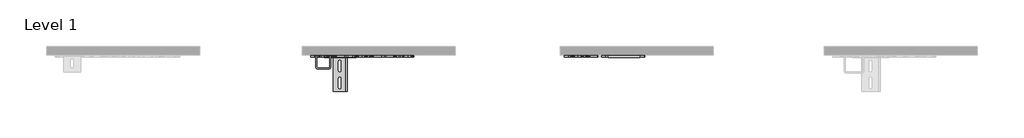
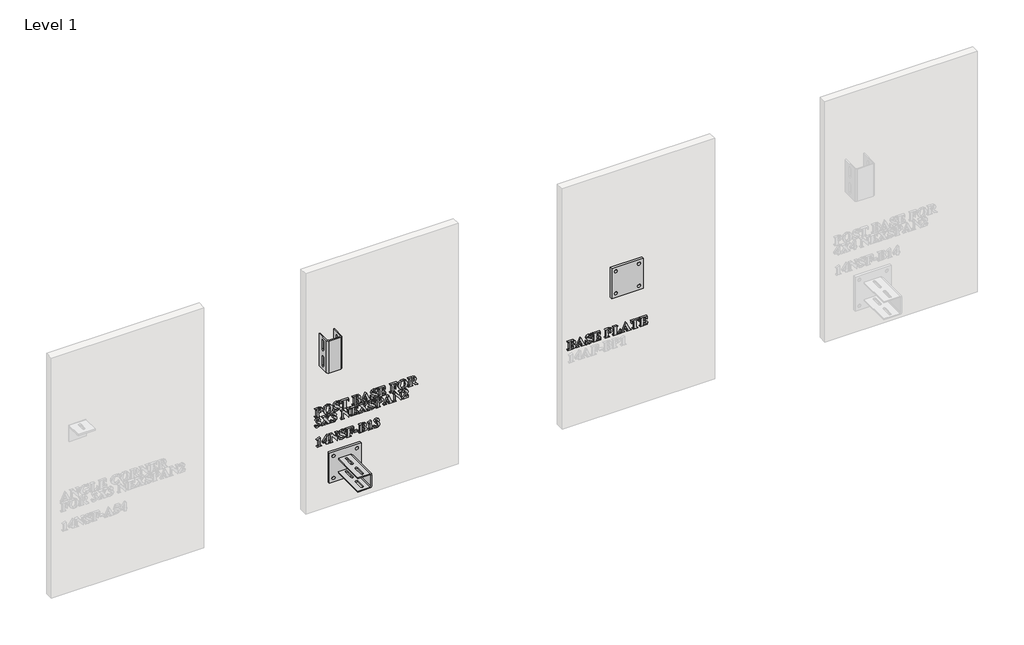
# One storey, part 11 of 21: 7 proxies.
"""IFC4 building model written with IfcOpenShell, lengths in millimetres."""

from ifc_helpers import new_model, si_unit, frame, origin, place, context, project, spatial, polyline, outline, extrude, transform, mapped, element, save
from components import generic_models_21444040, generic_models_12b81452, part_bent_plate_f_part_bent_plate_f_93af9144

model = new_model("IFC4")

# Units and contexts
model_context = context("Model", 3, world=origin())
ifc_project = project(units=[si_unit("LENGTHUNIT", "METRE", prefix="MILLI")], contexts=[model_context])

# Site, building, storey
site = spatial("IfcSite", under=ifc_project)
building = spatial("IfcBuilding", under=site)
storey = spatial("IfcBuildingStorey", under=building, Name="Level 1", Elevation=0.0)

# Proxies
placement = place(None, origin())
element("IfcBuildingElementProxy", 1, Name="2\"\" Arial", ObjectType="2\"\" Arial", at=placement, inside=storey, context=model_context, shape_type="SweptSolid", body=[
    extrude(outline(polyline([(624.2127681, 14570.2507456), (625.1268914, 14583.5055329), (630.022991, 14592.6398403), (638.6586857, 14595.9569997), (648.6032388, 14590.9085463), (652.5782899, 14574.2534975), (652.5782899, 14550.7494494), (650.8054448, 14550.7494494), (650.2029545, 14555.5347461), (648.5963136, 14557.3283668), (643.7140644, 14557.8408298), (609.1435847, 14557.8408298), (604.2751858, 14557.3283668), (602.6685449, 14555.5555217), (602.0522042, 14550.7494494), (600.2793591, 14550.7494494), (600.2793591, 14577.3421261), (602.0522042, 14577.3421261), (602.6546946, 14572.5706796), (604.2613354, 14570.7632087), (609.1435847, 14570.2507456), (624.2127681, 14570.2507456)]), holes=[polyline([(649.9190223, 14570.2507456), (649.9190223, 14572.0374411), (647.1628021, 14580.6592855), (638.4786311, 14583.547084), (629.6421063, 14580.6592855), (626.7889337, 14572.4391013), (626.8720358, 14570.2507456), (649.9190223, 14570.2507456)])]), frame((0.0, -15490.3579358, 0.0), z_axis=(0.0, 1.0, 0.0), x_axis=(0.0, 0.0, 1.0)), (0.0, 0.0, 1.0), 12.7),
    extrude(outline(polyline([(653.4647125, 14627.521953), (651.8788471, 14616.9801035), (646.1794271, 14608.2353372), (637.4606302, 14602.3506687), (626.8166344, 14600.3891125), (617.1733265, 14601.8953384), (608.9358294, 14606.4140158), (601.7786598, 14615.6314254), (599.3929366, 14628.0205657), (601.8929252, 14640.3785426), (609.392891, 14649.5855644), (626.8581854, 14655.347311), (637.4969874, 14653.4151869), (646.2002026, 14647.6188144), (651.884041, 14638.7303507), (653.4647125, 14627.521953)]), holes=[polyline([(650.8054448, 14627.9790146), (648.6863409, 14634.5925579), (641.4356814, 14639.3155281), (625.9440622, 14641.1645501), (611.8444034, 14639.350154), (603.9774032, 14634.280925), (602.0522042, 14627.9097628), (606.5120177, 14619.0870883), (626.2487699, 14614.5718734), (643.4924587, 14617.4942978), (648.9771983, 14621.9160228), (650.8054448, 14627.9790146)])]), frame((0.0, -15490.3579358, 0.0), z_axis=(0.0, 1.0, 0.0), x_axis=(0.0, 0.0, 1.0)), (0.0, 0.0, 1.0), 12.7),
    extrude(outline(polyline([(653.4647125, 14697.0091712), (653.4647125, 14695.2363261), (650.5284378, 14694.1282979), (649.9190223, 14692.4939563), (651.1586288, 14688.7335856), (652.855297, 14684.1837448), (653.4647125, 14679.1006655), (649.1364773, 14667.1685868), (638.6448354, 14662.4386915), (632.0382173, 14664.0730331), (626.6019539, 14668.7544522), (620.6947786, 14679.5992782), (616.6504757, 14687.3554755), (613.3817925, 14690.6172335), (609.8222519, 14691.6906358), (604.3859886, 14689.024443), (602.0522042, 14681.8568856), (606.366589, 14671.0051345), (618.8942328, 14664.2115366), (618.8942328, 14662.4386915), (599.3929366, 14662.4386915), (599.3929366, 14664.2115366), (602.0660546, 14666.0328579), (602.9386268, 14668.1727374), (602.0799049, 14671.2336653), (599.9538758, 14676.7807314), (599.3929366, 14681.4690757), (604.0743557, 14694.5299581), (615.2654405, 14699.6684388), (624.365122, 14697.0507222), (632.813837, 14684.3637994), (637.3013512, 14675.2225668), (640.8608918, 14671.302917), (643.9218197, 14670.4164945), (648.7209668, 14672.8403062), (650.8054448, 14679.4192236), (646.6711146, 14689.4330284), (635.7362614, 14695.2363261), (635.7362614, 14697.0091712), (653.4647125, 14697.0091712)])), frame((0.0, -15490.3579358, 0.0), z_axis=(0.0, 1.0, 0.0), x_axis=(0.0, 0.0, 1.0)), (0.0, 0.0, 1.0), 12.7),
    extrude(outline(polyline([(652.5782899, 14751.0809471), (652.5782899, 14704.9869742), (637.5091065, 14704.9869742), (637.5091065, 14706.7598193), (646.7195908, 14710.8595236), (649.0325997, 14718.2833125), (649.0325997, 14721.8290028), (609.1435847, 14721.8290028), (604.559118, 14721.4273425), (602.8139736, 14719.9038038), (602.0522042, 14716.3996646), (602.0522042, 14714.7376223), (600.2793591, 14714.7376223), (600.2793591, 14741.330299), (602.0522042, 14741.330299), (602.0522042, 14739.682107), (602.7585722, 14736.3164714), (604.4136893, 14734.6613543), (609.1435847, 14734.2389185), (649.0325997, 14734.2389185), (649.0325997, 14737.7846088), (648.3123814, 14742.7153342), (644.7874667, 14746.676535), (637.5091065, 14749.308102), (637.5091065, 14751.0809471), (652.5782899, 14751.0809471)])), frame((0.0, -15490.3579358, 0.0), z_axis=(0.0, 1.0, 0.0), x_axis=(0.0, 0.0, 1.0)), (0.0, 0.0, 1.0), 12.7),
    extrude(outline(polyline([(627.7307576, 14809.5848358), (632.4745034, 14819.2523818), (639.2819516, 14821.9947516), (646.1240257, 14819.8271715), (650.9577987, 14813.8992206), (652.5782899, 14801.0945698), (652.5782899, 14775.9007787), (650.8054448, 14775.9007787), (650.2029545, 14780.6860755), (648.5963136, 14782.4796961), (643.7140644, 14782.9921591), (609.1435847, 14782.9921591), (604.2751858, 14782.4796961), (602.6685449, 14780.706851), (602.0522042, 14775.9007787), (600.2793591, 14775.9007787), (600.2793591, 14802.2579994), (604.9053768, 14819.0584769), (614.5590725, 14823.7675967), (623.5756519, 14819.6263413), (627.7307576, 14809.5848358)]), holes=[polyline([(628.6448809, 14795.4020749), (649.9190223, 14795.4020749), (648.7625178, 14804.0169941), (645.272229, 14808.1443992), (639.4066048, 14809.5848358), (633.5063546, 14808.1236236), (629.9191133, 14803.9200417), (628.6448809, 14795.4020749)]), polyline([(625.9856132, 14795.4020749), (624.877585, 14804.7510628), (620.7917311, 14808.7330392), (614.1712626, 14809.5848358), (608.3194887, 14808.2967531), (604.3167368, 14804.5917838), (602.9386268, 14799.3078743), (604.0051039, 14796.38545), (607.1629843, 14795.4020749), (609.1020336, 14795.4020749), (625.9856132, 14795.4020749)])]), frame((0.0, -15490.3579358, 0.0), z_axis=(0.0, 1.0, 0.0), x_axis=(0.0, 0.0, 1.0)), (0.0, 0.0, 1.0), 12.7),
    extrude(outline(polyline([(615.3485426, 14858.7258863), (608.7003734, 14861.6483107), (604.559118, 14863.0333459), (602.869375, 14862.1884744), (602.0522042, 14856.8699391), (600.2793591, 14856.8699391), (600.2793591, 14882.2714854), (602.0522042, 14882.2714854), (603.4095388, 14878.5734413), (610.9025794, 14874.1413286), (653.4647125, 14854.4876784), (612.066009, 14835.6650495), (604.3375124, 14831.1983108), (602.0522042, 14826.5792183), (600.2793591, 14826.5792183), (600.2793591, 14844.3492205), (602.0522042, 14844.3492205), (602.9386268, 14839.2245901), (606.0272554, 14837.4517449), (610.0300072, 14838.5320724), (615.3485426, 14840.9420338), (615.3485426, 14858.7258863)]), holes=[polyline([(618.8942328, 14857.1746468), (618.8942328, 14842.5486746), (635.2376487, 14849.9586132), (618.8942328, 14857.1746468)])]), frame((0.0, -15490.3579358, 0.0), z_axis=(0.0, 1.0, 0.0), x_axis=(0.0, 0.0, 1.0)), (0.0, 0.0, 1.0), 12.7),
    extrude(outline(polyline([(653.4647125, 14921.2740779), (653.4647125, 14919.5012328), (650.5284378, 14918.3932046), (649.9190223, 14916.758863), (651.1586288, 14912.9984923), (652.855297, 14908.4486516), (653.4647125, 14903.3655722), (649.1364773, 14891.4334936), (638.6448354, 14886.7035982), (632.0382173, 14888.3379398), (626.6019539, 14893.0193589), (620.6947786, 14903.8641849), (616.6504757, 14911.6203823), (613.3817925, 14914.8821403), (609.8222519, 14915.9555426), (604.3859886, 14913.2893497), (602.0522042, 14906.1217924), (606.366589, 14895.2700412), (618.8942328, 14888.4764433), (618.8942328, 14886.7035982), (599.3929366, 14886.7035982), (599.3929366, 14888.4764433), (602.0660546, 14890.2977647), (602.9386268, 14892.4376441), (602.0799049, 14895.498572), (599.9538758, 14901.0456382), (599.3929366, 14905.7339825), (604.0743557, 14918.7948648), (615.2654405, 14923.9333456), (624.365122, 14921.315629), (632.813837, 14908.6287061), (637.3013512, 14899.4874735), (640.8608918, 14895.5678238), (643.9218197, 14894.6814012), (648.7209668, 14897.1052129), (650.8054448, 14903.6841303), (646.6711146, 14913.6979351), (635.7362614, 14919.5012328), (635.7362614, 14921.2740779), (653.4647125, 14921.2740779)])), frame((0.0, -15490.3579358, 0.0), z_axis=(0.0, 1.0, 0.0), x_axis=(0.0, 0.0, 1.0)), (0.0, 0.0, 1.0), 12.7),
    extrude(outline(polyline([(649.0325997, 14947.8667546), (649.0325997, 14952.2988674), (648.3400821, 14960.3320718), (644.7320653, 14966.0245667), (636.6226839, 14969.140896), (636.6226839, 14970.9137411), (652.5782899, 14970.9137411), (652.5782899, 14928.3654584), (650.8054448, 14928.3654584), (650.8054448, 14930.041351), (649.7805187, 14933.891749), (647.827619, 14935.2767842), (643.7140644, 14935.4568388), (609.1435847, 14935.4568388), (604.559118, 14935.0551786), (602.8139736, 14933.5593405), (602.0522042, 14930.041351), (602.0522042, 14928.3654584), (600.2793591, 14928.3654584), (600.2793591, 14972.1741232), (616.8859317, 14973.1159471), (606.4427659, 14967.0010165), (602.9386268, 14955.6783534), (602.9386268, 14952.6589766), (603.5549675, 14949.5426473), (605.1339076, 14948.2199386), (610.4039667, 14947.8667546), (625.0991907, 14947.8667546), (624.0950401, 14952.873657), (620.1753904, 14955.9068842), (612.6892749, 14957.6174027), (612.6892749, 14959.3902479), (640.1683741, 14959.3902479), (640.1683741, 14957.6174027), (630.9024884, 14955.1104889), (627.7584584, 14947.8667546), (649.0325997, 14947.8667546)])), frame((0.0, -15490.3579358, 0.0), z_axis=(0.0, 1.0, 0.0), x_axis=(0.0, 0.0, 1.0)), (0.0, 0.0, 1.0), 12.7),
    extrude(outline(polyline([(649.0325997, 15019.6669817), (649.0325997, 15024.0990945), (648.4370346, 15032.6586123), (644.7251401, 15039.0713255), (636.6226839, 15041.8275456), (636.6226839, 15043.6003907), (652.5782899, 15043.6003907), (652.5782899, 15000.1656854), (650.8054448, 15000.1656854), (650.8054448, 15001.8415781), (650.0990768, 15005.1933634), (648.4439597, 15006.8484805), (643.7140644, 15007.2570659), (609.1435847, 15007.2570659), (604.559118, 15006.8554057), (602.8139736, 15005.3595676), (602.0522042, 15001.8415781), (602.0522042, 15000.1656854), (600.2793591, 15000.1656854), (600.2793591, 15026.7583621), (602.0522042, 15026.7583621), (602.0522042, 15025.0963198), (602.7585722, 15021.7514597), (604.4136893, 15020.0894174), (609.1435847, 15019.6669817), (625.0991907, 15019.6669817), (625.0991907, 15021.4398268), (622.6823042, 15028.3511527), (612.6892749, 15032.0768975), (612.6892749, 15033.8497426), (641.0547967, 15033.8497426), (641.0547967, 15032.0768975), (633.6725588, 15030.2209502), (629.7944602, 15026.7375866), (628.6448809, 15021.4398268), (628.6448809, 15019.6669817), (649.0325997, 15019.6669817)])), frame((0.0, -15490.3579358, 0.0), z_axis=(0.0, 1.0, 0.0), x_axis=(0.0, 0.0, 1.0)), (0.0, 0.0, 1.0), 12.7),
    extrude(outline(polyline([(653.4647125, 15076.0517665), (651.8788471, 15065.509917), (646.1794271, 15056.7651507), (637.4606302, 15050.8804822), (626.8166344, 15048.918926), (617.1733265, 15050.4251519), (608.9358294, 15054.9438294), (601.7786598, 15064.1612389), (599.3929366, 15076.5503792), (601.8929252, 15088.9083561), (609.392891, 15098.1153779), (626.8581854, 15103.8771245), (637.4969874, 15101.9450004), (646.2002026, 15096.1486279), (651.884041, 15087.2601642), (653.4647125, 15076.0517665)]), holes=[polyline([(650.8054448, 15076.5088281), (648.6863409, 15083.1223714), (641.4356814, 15087.8453416), (625.9440622, 15089.6943636), (611.8444034, 15087.8799675), (603.9774032, 15082.8107385), (602.0522042, 15076.4395763), (606.5120177, 15067.6169018), (626.2487699, 15063.1016869), (643.4924587, 15066.0241113), (648.9771983, 15070.4458363), (650.8054448, 15076.5088281)])]), frame((0.0, -15490.3579358, 0.0), z_axis=(0.0, 1.0, 0.0), x_axis=(0.0, 0.0, 1.0)), (0.0, 0.0, 1.0), 12.7),
    extrude(outline(polyline([(624.2127681, 15127.8105336), (624.2127681, 15131.245421), (600.2793591, 15148.0320481), (600.2793591, 15164.1538584), (602.0522042, 15164.1538584), (603.3956884, 15160.8851752), (607.7723998, 15157.7411452), (625.4592998, 15145.3312294), (628.9911397, 15152.2841063), (638.395529, 15156.1760554), (646.5326111, 15153.41291), (651.2902072, 15146.2799785), (652.5782899, 15132.4781023), (652.5782899, 15108.3092373), (650.8054448, 15108.3092373), (650.2029545, 15113.0945341), (648.5963136, 15114.8881547), (643.7140644, 15115.4006178), (609.1435847, 15115.4006178), (604.2751858, 15114.8881547), (602.6685449, 15113.1153096), (602.0522042, 15108.3092373), (600.2793591, 15108.3092373), (600.2793591, 15134.901914), (602.0522042, 15134.901914), (602.6546946, 15130.1166172), (604.2613354, 15128.3229966), (609.1435847, 15127.8105336), (624.2127681, 15127.8105336)]), holes=[polyline([(649.9190223, 15127.8105336), (649.9190223, 15131.9379386), (647.0450741, 15140.9683684), (638.160073, 15143.7661396), (631.4288018, 15142.2426008), (627.862336, 15138.0528692), (626.8720358, 15130.0127396), (626.8720358, 15127.8105336), (649.9190223, 15127.8105336)])]), frame((0.0, -15490.3579358, 0.0), z_axis=(0.0, 1.0, 0.0), x_axis=(0.0, 0.0, 1.0)), (0.0, 0.0, 1.0), 12.7),
    extrude(outline(polyline([(564.5485426, 14559.6136749), (558.3782106, 14571.5042025), (548.6206373, 14575.569281), (542.8796662, 14573.4640274), (540.6151335, 14568.4224991), (543.7314628, 14561.1649144), (547.1524999, 14556.6635499), (547.706514, 14554.1981871), (546.2176011, 14551.1718851), (542.6234346, 14549.8630268), (537.9004645, 14552.1206343), (535.2965982, 14562.0651873), (536.8114805, 14571.2410458), (541.3561274, 14578.3532018), (548.0648919, 14582.9134303), (556.0721269, 14584.4335065), (564.6177943, 14581.5941843), (570.3518402, 14573.3532246), (574.5554222, 14579.738237), (579.5207736, 14581.7742388), (586.4182491, 14578.1385213), (589.3683741, 14568.9072614), (586.9237869, 14558.9557832), (579.105263, 14552.5222945), (584.0498388, 14561.9128334), (581.6883537, 14567.8615598), (576.0304847, 14570.2507456), (571.3282901, 14568.969588), (567.8795523, 14565.9294357), (564.5485426, 14559.6136749)])), frame((0.0, -15490.3579358, 0.0), z_axis=(0.0, 1.0, 0.0), x_axis=(0.0, 0.0, 1.0)), (0.0, 0.0, 1.0), 12.7),
    extrude(outline(polyline([(566.5845444, 14621.9679616), (578.4681468, 14631.4554531), (584.2021927, 14636.4692806), (586.1481672, 14639.4332561), (586.7091065, 14643.0897491), (588.4819516, 14643.0897491), (588.4819516, 14623.6577046), (586.7091065, 14623.6577046), (586.2243441, 14627.1202927), (584.88086, 14628.8377364), (583.0110624, 14629.4333016), (575.9473826, 14625.1950938), (569.5069687, 14620.0427626), (579.146814, 14613.7131516), (584.3406962, 14610.7907272), (586.0304392, 14611.6771498), (586.7091065, 14616.0954122), (588.4819516, 14616.0954122), (588.4819516, 14590.5553623), (586.7091065, 14590.5553623), (585.9334867, 14593.3254328), (584.2021927, 14595.3614346), (579.0775623, 14599.1010298), (559.4377625, 14612.0095582), (546.8616425, 14601.940352), (539.7425613, 14594.7381687), (537.9558659, 14589.3503816), (536.1830208, 14589.3503816), (536.1830208, 14609.6965494), (537.9558659, 14609.6965494), (538.1774715, 14606.3863151), (539.4655543, 14603.6508705), (541.4046036, 14602.7298221), (547.000146, 14606.303213), (556.5291885, 14613.9209069), (545.781315, 14620.9845866), (540.4627797, 14623.948562), (538.8422884, 14623.0621395), (537.9558659, 14619.1424897), (536.1830208, 14619.1424897), (536.1830208, 14644.4332333), (537.9558659, 14644.4332333), (539.2993501, 14640.8321417), (545.6428115, 14635.7213616), (566.5845444, 14621.9679616)])), frame((0.0, -15490.3579358, 0.0), z_axis=(0.0, 1.0, 0.0), x_axis=(0.0, 0.0, 1.0)), (0.0, 0.0, 1.0), 12.7),
    extrude(outline(polyline([(564.5485426, 14655.347311), (558.3782106, 14667.2378386), (548.6206373, 14671.302917), (542.8796662, 14669.1976635), (540.6151335, 14664.1561352), (543.7314628, 14656.8985505), (547.1524999, 14652.397186), (547.706514, 14649.9318232), (546.2176011, 14646.9055212), (542.6234346, 14645.5966629), (537.9004645, 14647.8542704), (535.2965982, 14657.7988234), (536.8114805, 14666.9746819), (541.3561274, 14674.0868379), (548.0648919, 14678.6470664), (556.0721269, 14680.1671426), (564.6177943, 14677.3278204), (570.3518402, 14669.0868606), (574.5554222, 14675.4718731), (579.5207736, 14677.5078749), (586.4182491, 14673.8721574), (589.3683741, 14664.6408975), (586.9237869, 14654.6894193), (579.105263, 14648.2559306), (584.0498388, 14657.6464695), (581.6883537, 14663.5951959), (576.0304847, 14665.9843817), (571.3282901, 14664.7032241), (567.8795523, 14661.6630717), (564.5485426, 14655.347311)])), frame((0.0, -15490.3579358, 0.0), z_axis=(0.0, 1.0, 0.0), x_axis=(0.0, 0.0, 1.0)), (0.0, 0.0, 1.0), 12.7),
    extrude(outline(polyline([(588.4819516, 14724.0727598), (588.4819516, 14705.6517911), (586.7091065, 14705.6517911), (586.1066161, 14709.3152093), (582.955661, 14712.9647772), (545.0472463, 14712.9647772), (539.5971326, 14711.4066125), (537.9558659, 14705.8733967), (536.1830208, 14705.8733967), (536.1830208, 14723.6018479), (537.9558659, 14722.50767), (539.4170781, 14718.3317888), (545.0472463, 14716.5104674), (578.4542964, 14716.5104674), (535.2965982, 14750.3330281), (535.2965982, 14751.9673697), (577.8448809, 14751.9673697), (583.2811442, 14752.6252614), (585.5664524, 14754.4604331), (586.7091065, 14759.0587501), (588.4819516, 14759.0587501), (588.4819516, 14741.330299), (586.7091065, 14741.330299), (584.4653494, 14747.1612974), (577.8448809, 14748.4216794), (557.4156111, 14748.4216794), (588.4819516, 14724.0727598)])), frame((0.0, -15490.3579358, 0.0), z_axis=(0.0, 1.0, 0.0), x_axis=(0.0, 0.0, 1.0)), (0.0, 0.0, 1.0), 12.7),
    extrude(outline(polyline([(584.9362614, 14782.9921591), (584.9362614, 14787.4242719), (584.2437437, 14795.4574763), (580.6357269, 14801.1499712), (572.5263456, 14804.2663005), (572.5263456, 14806.0391456), (588.4819516, 14806.0391456), (588.4819516, 14763.4908629), (586.7091065, 14763.4908629), (586.7091065, 14765.1667555), (585.6841804, 14769.0171535), (583.7312807, 14770.4021888), (579.617726, 14770.5822433), (545.0472463, 14770.5822433), (540.4627797, 14770.1805831), (538.7176353, 14768.6847451), (537.9558659, 14765.1667555), (537.9558659, 14763.4908629), (536.1830208, 14763.4908629), (536.1830208, 14807.2995277), (552.7895933, 14808.2413516), (542.3464276, 14802.126421), (538.8422884, 14790.8037579), (538.8422884, 14787.7843811), (539.4586291, 14784.6680518), (541.0375693, 14783.3453431), (546.3076284, 14782.9921591), (561.0028523, 14782.9921591), (559.9987018, 14787.9990615), (556.079052, 14791.0322887), (548.5929366, 14792.7428073), (548.5929366, 14794.5156524), (576.0720358, 14794.5156524), (576.0720358, 14792.7428073), (566.80615, 14790.2358935), (563.66212, 14782.9921591), (584.9362614, 14782.9921591)])), frame((0.0, -15490.3579358, 0.0), z_axis=(0.0, 1.0, 0.0), x_axis=(0.0, 0.0, 1.0)), (0.0, 0.0, 1.0), 12.7),
    extrude(outline(polyline([(566.5845444, 14846.2328684), (578.4681468, 14855.7203598), (584.2021927, 14860.7341874), (586.1481672, 14863.6981628), (586.7091065, 14867.3546559), (588.4819516, 14867.3546559), (588.4819516, 14847.9226114), (586.7091065, 14847.9226114), (586.2243441, 14851.3851995), (584.88086, 14853.1026432), (583.0110624, 14853.6982084), (575.9473826, 14849.4600005), (569.5069687, 14844.3076694), (579.146814, 14837.9780583), (584.3406962, 14835.055634), (586.0304392, 14835.9420565), (586.7091065, 14840.360319), (588.4819516, 14840.360319), (588.4819516, 14814.8202691), (586.7091065, 14814.8202691), (585.9334867, 14817.5903395), (584.2021927, 14819.6263413), (579.0775623, 14823.3659365), (559.4377625, 14836.274465), (546.8616425, 14826.2052588), (539.7425613, 14819.0030755), (537.9558659, 14813.6152884), (536.1830208, 14813.6152884), (536.1830208, 14833.9614561), (537.9558659, 14833.9614561), (538.1774715, 14830.6512219), (539.4655543, 14827.9157773), (541.4046036, 14826.9947288), (547.000146, 14830.5681198), (556.5291885, 14838.1858136), (545.781315, 14845.2494934), (540.4627797, 14848.2134688), (538.8422884, 14847.3270462), (537.9558659, 14843.4073965), (536.1830208, 14843.4073965), (536.1830208, 14868.6981401), (537.9558659, 14868.6981401), (539.2993501, 14865.0970484), (545.6428115, 14859.9862684), (566.5845444, 14846.2328684)])), frame((0.0, -15490.3579358, 0.0), z_axis=(0.0, 1.0, 0.0), x_axis=(0.0, 0.0, 1.0)), (0.0, 0.0, 1.0), 12.7),
    extrude(outline(polyline([(589.3683741, 14907.9777396), (589.3683741, 14906.2048945), (586.4320994, 14905.0968663), (585.8226839, 14903.4625247), (587.0622905, 14899.702154), (588.7589586, 14895.1523132), (589.3683741, 14890.0692339), (585.040139, 14878.1371552), (574.548497, 14873.4072599), (567.9418789, 14875.0416015), (562.5056156, 14879.7230206), (556.5984403, 14890.5678466), (552.5541373, 14898.3240439), (549.2854542, 14901.5858019), (545.7259136, 14902.6592042), (540.2896503, 14899.9930114), (537.9558659, 14892.825454), (542.2702507, 14881.9737029), (554.7978944, 14875.180105), (554.7978944, 14873.4072599), (535.2965982, 14873.4072599), (535.2965982, 14875.180105), (537.9697162, 14877.0014263), (538.8422884, 14879.1413058), (537.9835666, 14882.2022337), (535.8575375, 14887.7492998), (535.2965982, 14892.4376441), (539.9780173, 14905.4985265), (551.1691021, 14910.6370073), (560.2687837, 14908.0192906), (568.7174987, 14895.3323678), (573.2050128, 14886.1911352), (576.7645534, 14882.2714854), (579.8254813, 14881.3850629), (584.6246284, 14883.8088746), (586.7091065, 14890.387792), (582.5747763, 14900.4015968), (571.639923, 14906.2048945), (571.639923, 14907.9777396), (589.3683741, 14907.9777396)])), frame((0.0, -15490.3579358, 0.0), z_axis=(0.0, 1.0, 0.0), x_axis=(0.0, 0.0, 1.0)), (0.0, 0.0, 1.0), 12.7),
    extrude(outline(polyline([(560.1164298, 14933.6839937), (561.030553, 14946.938781), (565.9266526, 14956.0730884), (574.5623474, 14959.3902479), (584.5069004, 14954.3417944), (588.4819516, 14937.6867456), (588.4819516, 14914.1826975), (586.7091065, 14914.1826975), (586.1066161, 14918.9679942), (584.4999753, 14920.7616149), (579.617726, 14921.2740779), (545.0472463, 14921.2740779), (540.1788474, 14920.7616149), (538.5722066, 14918.9887698), (537.9558659, 14914.1826975), (536.1830208, 14914.1826975), (536.1830208, 14940.7753742), (537.9558659, 14940.7753742), (538.5583562, 14936.0039278), (540.1649971, 14934.1964568), (545.0472463, 14933.6839937), (560.1164298, 14933.6839937)]), holes=[polyline([(585.8226839, 14933.6839937), (585.8226839, 14935.4706892), (583.0664638, 14944.0925336), (574.3822928, 14946.9803321), (565.5457679, 14944.0925336), (562.6925953, 14935.8723494), (562.7756975, 14933.6839937), (585.8226839, 14933.6839937)])]), frame((0.0, -15490.3579358, 0.0), z_axis=(0.0, 1.0, 0.0), x_axis=(0.0, 0.0, 1.0)), (0.0, 0.0, 1.0), 12.7),
    extrude(outline(polyline([(551.2522042, 14993.4621149), (544.604035, 14996.3845392), (540.4627797, 14997.7695745), (538.7730367, 14996.924703), (537.9558659, 14991.6061676), (536.1830208, 14991.6061676), (536.1830208, 15017.007714), (537.9558659, 15017.007714), (539.3132004, 15013.3096699), (546.8062411, 15008.8775571), (589.3683741, 14989.223907), (547.9696707, 14970.401278), (540.241174, 14965.9345394), (537.9558659, 14961.3154468), (536.1830208, 14961.3154468), (536.1830208, 14979.085449), (537.9558659, 14979.085449), (538.8422884, 14973.9608186), (541.930917, 14972.1879735), (545.9336689, 14973.268301), (551.2522042, 14975.6782623), (551.2522042, 14993.4621149)]), holes=[polyline([(554.7978944, 14991.9108754), (554.7978944, 14977.2849032), (571.1413103, 14984.6948418), (554.7978944, 14991.9108754)])]), frame((0.0, -15490.3579358, 0.0), z_axis=(0.0, 1.0, 0.0), x_axis=(0.0, 0.0, 1.0)), (0.0, 0.0, 1.0), 12.7),
    extrude(outline(polyline([(588.4819516, 15036.9799222), (588.4819516, 15018.5589535), (586.7091065, 15018.5589535), (586.1066161, 15022.2223717), (582.955661, 15025.8719396), (545.0472463, 15025.8719396), (539.5971326, 15024.3137749), (537.9558659, 15018.7805591), (536.1830208, 15018.7805591), (536.1830208, 15036.5090103), (537.9558659, 15035.4148324), (539.4170781, 15031.2389511), (545.0472463, 15029.4176298), (578.4542964, 15029.4176298), (535.2965982, 15063.2401905), (535.2965982, 15064.8745321), (577.8448809, 15064.8745321), (583.2811442, 15065.5324238), (585.5664524, 15067.3675955), (586.7091065, 15071.9659125), (588.4819516, 15071.9659125), (588.4819516, 15054.2374614), (586.7091065, 15054.2374614), (584.4653494, 15060.0684598), (577.8448809, 15061.3288418), (557.4156111, 15061.3288418), (588.4819516, 15036.9799222)])), frame((0.0, -15490.3579358, 0.0), z_axis=(0.0, 1.0, 0.0), x_axis=(0.0, 0.0, 1.0)), (0.0, 0.0, 1.0), 12.7),
    extrude(outline(polyline([(536.1830208, 15106.0516299), (551.2522042, 15107.6721211), (548.1635756, 15105.5737927), (547.1247992, 15103.5377909), (546.8200914, 15098.1846297), (546.8200914, 15087.0212456), (566.3906394, 15103.738621), (576.6260499, 15106.5363922), (582.5609259, 15104.6458191), (587.5470528, 15099.417311), (589.3683741, 15092.0350732), (585.864235, 15082.0420439), (574.548497, 15077.0212911), (579.0152357, 15081.1902472), (580.5041486, 15086.7719393), (577.8241054, 15093.246979), (571.0997593, 15095.8993215), (559.7286199, 15092.7968426), (536.1830208, 15074.6251802), (536.1830208, 15106.0516299)])), frame((0.0, -15490.3579358, 0.0), z_axis=(0.0, 1.0, 0.0), x_axis=(0.0, 0.0, 1.0)), (0.0, 0.0, 1.0), 12.7),
])
element("IfcBuildingElementProxy", 2, Name="2\"\" Arial", ObjectType="2\"\" Arial", at=placement, inside=storey, context=model_context, shape_type="SweptSolid", body=[
    extrude(outline(polyline([(463.8692305, 14580.4026674), (455.0050049, 14560.6451396), (453.2321598, 14561.3099565), (454.4648412, 14565.8667225), (453.827725, 14567.9442753), (452.3111114, 14569.1769567), (447.9136245, 14569.5093652), (421.3209478, 14569.5093652), (415.2544934, 14568.9899769), (413.2046413, 14567.0024514), (412.4567222, 14560.6451396), (410.6838771, 14560.6451396), (410.6838771, 14589.0106614), (412.4567222, 14587.77798), (413.273893, 14583.3043162), (415.3791466, 14581.4691445), (421.3209478, 14581.0328584), (463.8692305, 14580.4026674)])), frame((0.0, -15490.3579358, 0.0), z_axis=(0.0, 1.0, 0.0), x_axis=(0.0, 0.0, 1.0)), (0.0, 0.0, 1.0), 12.7),
    extrude(outline(polyline([(430.1851733, 14597.874887), (422.2073703, 14597.874887), (422.2073703, 14616.4897607), (410.6838771, 14616.4897607), (410.6838771, 14628.0132539), (422.2073703, 14628.0132539), (422.2073703, 14632.4453667), (430.1851733, 14632.4453667), (430.1851733, 14628.0132539), (463.8692305, 14628.0132539), (463.8692305, 14622.9024738), (430.1851733, 14597.874887)]), holes=[polyline([(430.1851733, 14600.5618553), (451.6116686, 14616.4897607), (430.1851733, 14616.4897607), (430.1851733, 14600.5618553)])]), frame((0.0, -15490.3579358, 0.0), z_axis=(0.0, 1.0, 0.0), x_axis=(0.0, 0.0, 1.0)), (0.0, 0.0, 1.0), 12.7),
    extrude(outline(polyline([(462.9828079, 14655.0768426), (462.9828079, 14636.6558738), (461.2099628, 14636.6558738), (460.6074725, 14640.319292), (457.4565173, 14643.9688599), (419.5481027, 14643.9688599), (414.097989, 14642.4106952), (412.4567222, 14636.8774794), (410.6838771, 14636.8774794), (410.6838771, 14654.6059306), (412.4567222, 14653.5117527), (413.9179344, 14649.3358715), (419.5481027, 14647.5145501), (452.9551528, 14647.5145501), (409.7974546, 14681.3371108), (409.7974546, 14682.9714524), (452.3457373, 14682.9714524), (457.7820006, 14683.6293441), (460.0673087, 14685.4645158), (461.2099628, 14690.0628328), (462.9828079, 14690.0628328), (462.9828079, 14672.3343817), (461.2099628, 14672.3343817), (458.9662057, 14678.1653801), (452.3457373, 14679.4257622), (431.9164674, 14679.4257622), (462.9828079, 14655.0768426)])), frame((0.0, -15490.3579358, 0.0), z_axis=(0.0, 1.0, 0.0), x_axis=(0.0, 0.0, 1.0)), (0.0, 0.0, 1.0), 12.7),
    extrude(outline(polyline([(463.8692305, 14730.8382704), (463.8692305, 14729.0654253), (460.9329558, 14727.9573971), (460.3235403, 14726.3230555), (461.5631468, 14722.5626848), (463.259815, 14718.0128441), (463.8692305, 14712.9297647), (459.5409954, 14700.9976861), (449.0493534, 14696.2677907), (442.4427353, 14697.9021323), (437.0064719, 14702.5835514), (431.0992966, 14713.4283774), (427.0549937, 14721.1845748), (423.7863105, 14724.4463328), (420.2267699, 14725.5197351), (414.7905066, 14722.8535422), (412.4567222, 14715.6859848), (416.771107, 14704.8342337), (429.2987508, 14698.0406358), (429.2987508, 14696.2677907), (409.7974546, 14696.2677907), (409.7974546, 14698.0406358), (412.4705726, 14699.8619572), (413.3431448, 14702.0018366), (412.4844229, 14705.0627645), (410.3583938, 14710.6098307), (409.7974546, 14715.298175), (414.4788737, 14728.3590573), (425.6699585, 14733.4975381), (434.76964, 14730.8798215), (443.218355, 14718.1928986), (447.7058692, 14709.051666), (451.2654098, 14705.1320163), (454.3263377, 14704.2455937), (459.1254848, 14706.6694054), (461.2099628, 14713.2483228), (457.0756326, 14723.2621276), (446.1407794, 14729.0654253), (446.1407794, 14730.8382704), (463.8692305, 14730.8382704)])), frame((0.0, -15490.3579358, 0.0), z_axis=(0.0, 1.0, 0.0), x_axis=(0.0, 0.0, 1.0)), (0.0, 0.0, 1.0), 12.7),
    extrude(outline(polyline([(459.4371177, 14757.4309471), (459.4371177, 14761.8630599), (458.8415526, 14770.4225777), (455.1296581, 14776.8352909), (447.0272019, 14779.591511), (447.0272019, 14781.3643561), (462.9828079, 14781.3643561), (462.9828079, 14737.9296509), (461.2099628, 14737.9296509), (461.2099628, 14739.6055435), (460.5035948, 14742.9573288), (458.8484777, 14744.6124459), (454.1185824, 14745.0210313), (419.5481027, 14745.0210313), (414.963636, 14744.6193711), (413.2184916, 14743.123533), (412.4567222, 14739.6055435), (412.4567222, 14737.9296509), (410.6838771, 14737.9296509), (410.6838771, 14764.5223276), (412.4567222, 14764.5223276), (412.4567222, 14762.8602853), (413.1630902, 14759.5154252), (414.8182073, 14757.8533829), (419.5481027, 14757.4309471), (435.5037087, 14757.4309471), (435.5037087, 14759.2037922), (433.0868222, 14766.1151181), (423.0937929, 14769.8408629), (423.0937929, 14771.613708), (451.4593147, 14771.613708), (451.4593147, 14769.8408629), (444.0770768, 14767.9849157), (440.1989782, 14764.501552), (439.0493989, 14759.2037922), (439.0493989, 14757.4309471), (459.4371177, 14757.4309471)])), frame((0.0, -15490.3579358, 0.0), z_axis=(0.0, 1.0, 0.0), x_axis=(0.0, 0.0, 1.0)), (0.0, 0.0, 1.0), 12.7),
    extrude(outline(polyline([(14807.0706103, -15490.3579358), (14784.9100464, -15490.3579358), (14784.9100464, -15477.6579358), (14807.0706103, -15477.6579358), (14807.0706103, -15490.3579358)])), frame((0.0, 0.0, 424.866638), z_axis=(0.0, 0.0, 1.0), x_axis=(1.0, 0.0, 0.0)), (0.0, 0.0, 1.0), 7.977803),
    extrude(outline(polyline([(438.1352757, 14846.0732027), (442.8790214, 14855.7407487), (449.6864696, 14858.4831185), (456.5285437, 14856.3155384), (461.3623167, 14850.3875875), (462.9828079, 14837.5829367), (462.9828079, 14812.3891456), (461.2099628, 14812.3891456), (460.6074725, 14817.1744424), (459.0008316, 14818.968063), (454.1185824, 14819.4805261), (419.5481027, 14819.4805261), (414.6797038, 14818.968063), (413.0730629, 14817.1952179), (412.4567222, 14812.3891456), (410.6838771, 14812.3891456), (410.6838771, 14838.7463663), (415.3098948, 14855.5468438), (424.9635905, 14860.2559636), (433.9801699, 14856.1147083), (438.1352757, 14846.0732027)]), holes=[polyline([(439.0493989, 14831.8904418), (460.3235403, 14831.8904418), (459.1670358, 14840.5053611), (455.676747, 14844.6327661), (449.8111228, 14846.0732027), (443.9108726, 14844.6119906), (440.3236313, 14840.4084086), (439.0493989, 14831.8904418)]), polyline([(436.3901312, 14831.8904418), (435.282103, 14841.2394297), (431.1962491, 14845.2214061), (424.5757806, 14846.0732027), (418.7240067, 14844.78512), (414.7212548, 14841.0801507), (413.3431448, 14835.7962412), (414.4096219, 14832.8738169), (417.5675023, 14831.8904418), (419.5065516, 14831.8904418), (436.3901312, 14831.8904418)])]), frame((0.0, -15490.3579358, 0.0), z_axis=(0.0, 1.0, 0.0), x_axis=(0.0, 0.0, 1.0)), (0.0, 0.0, 1.0), 12.7),
    extrude(outline(polyline([(463.8692305, 14887.1048719), (455.0050049, 14867.3473441), (453.2321598, 14868.012161), (454.4648412, 14872.568927), (453.827725, 14874.6464798), (452.3111114, 14875.8791612), (447.9136245, 14876.2115697), (421.3209478, 14876.2115697), (415.2544934, 14875.6921814), (413.2046413, 14873.7046559), (412.4567222, 14867.3473441), (410.6838771, 14867.3473441), (410.6838771, 14895.7128659), (412.4567222, 14894.4801845), (413.273893, 14890.0065207), (415.3791466, 14888.171349), (421.3209478, 14887.7350629), (463.8692305, 14887.1048719)])), frame((0.0, -15490.3579358, 0.0), z_axis=(0.0, 1.0, 0.0), x_axis=(0.0, 0.0, 1.0)), (0.0, 0.0, 1.0), 12.7),
    extrude(outline(polyline([(439.0493989, 14912.5548945), (432.8790669, 14924.445422), (423.1214936, 14928.5105005), (417.3805225, 14926.4052469), (415.1159899, 14921.3637186), (418.2323192, 14914.1061339), (421.6533562, 14909.6047694), (422.2073703, 14907.1394067), (420.7184575, 14904.1131047), (417.124291, 14902.8042464), (412.4013208, 14905.0618538), (409.7974546, 14915.0064069), (411.3123369, 14924.1822653), (415.8569837, 14931.2944213), (422.5657482, 14935.8546499), (430.5729832, 14937.374726), (439.1186507, 14934.5354038), (444.8526966, 14926.2944441), (449.0562786, 14932.6794566), (454.0216299, 14934.7154584), (460.9191054, 14931.0797409), (463.8692305, 14921.848481), (461.4246433, 14911.8970027), (453.6061193, 14905.463514), (458.5506952, 14914.854053), (456.1892101, 14920.8027793), (450.5313411, 14923.1919651), (445.8291464, 14921.9108075), (442.3804087, 14918.8706552), (439.0493989, 14912.5548945)])), frame((0.0, -15490.3579358, 0.0), z_axis=(0.0, 1.0, 0.0), x_axis=(0.0, 0.0, 1.0)), (0.0, 0.0, 1.0), 12.7),
])
element("IfcBuildingElementProxy", 3, Name="2\"\" Arial", ObjectType="2\"\" Arial", at=placement, inside=storey, context=model_context, shape_type="SweptSolid", body=[
    extrude(outline(polyline([(524.507993, 16098.4385935), (529.2517387, 16108.1061395), (536.059187, 16110.8485093), (542.9012611, 16108.6809292), (547.7350341, 16102.7529783), (549.3555253, 16089.9483275), (549.3555253, 16064.7545364), (547.5826802, 16064.7545364), (546.9801899, 16069.5398332), (545.373549, 16071.3334538), (540.4912997, 16071.8459169), (505.92082, 16071.8459169), (501.0524212, 16071.3334538), (499.4457803, 16069.5606087), (498.8294396, 16064.7545364), (497.0565945, 16064.7545364), (497.0565945, 16091.1117571), (501.6826122, 16107.9122346), (511.3363078, 16112.6213544), (520.3528873, 16108.4800991), (524.507993, 16098.4385935)]), holes=[polyline([(525.4221163, 16084.2558326), (546.6962576, 16084.2558326), (545.5397532, 16092.8707519), (542.0494644, 16096.9981569), (536.1838401, 16098.4385935), (530.28359, 16096.9773814), (526.6963487, 16092.7737994), (525.4221163, 16084.2558326)]), polyline([(522.7628486, 16084.2558326), (521.6548204, 16093.6048205), (517.5689664, 16097.5867969), (510.948498, 16098.4385935), (505.0967241, 16097.1505108), (501.0939722, 16093.4455415), (499.7158621, 16088.161632), (500.7823393, 16085.2392077), (503.9402196, 16084.2558326), (505.879269, 16084.2558326), (522.7628486, 16084.2558326)])]), frame((0.0, -15490.3579358, 0.0), z_axis=(0.0, 1.0, 0.0), x_axis=(0.0, 0.0, 1.0)), (0.0, 0.0, 1.0), 12.7),
    extrude(outline(polyline([(512.1257779, 16147.579644), (505.4776088, 16150.5020684), (501.3363534, 16151.8871036), (499.6466104, 16151.0422321), (498.8294396, 16145.7236968), (497.0565945, 16145.7236968), (497.0565945, 16171.1252432), (498.8294396, 16171.1252432), (500.1867741, 16167.4271991), (507.6798148, 16162.9950863), (550.2419479, 16143.3414362), (508.8432444, 16124.5188072), (501.1147477, 16120.0520685), (498.8294396, 16115.432976), (497.0565945, 16115.432976), (497.0565945, 16133.2029782), (498.8294396, 16133.2029782), (499.7158621, 16128.0783478), (502.8044907, 16126.3055027), (506.8072426, 16127.3858301), (512.1257779, 16129.7957915), (512.1257779, 16147.579644)]), holes=[polyline([(515.6714682, 16146.0284045), (515.6714682, 16131.4024324), (532.014884, 16138.8123709), (515.6714682, 16146.0284045)])]), frame((0.0, -15490.3579358, 0.0), z_axis=(0.0, 1.0, 0.0), x_axis=(0.0, 0.0, 1.0)), (0.0, 0.0, 1.0), 12.7),
    extrude(outline(polyline([(550.2419479, 16210.1278356), (550.2419479, 16208.3549905), (547.3056731, 16207.2469623), (546.6962576, 16205.6126207), (547.9358642, 16201.8522501), (549.6325323, 16197.3024093), (550.2419479, 16192.2193299), (545.9137127, 16180.2872513), (535.4220707, 16175.5573559), (528.8154526, 16177.1916975), (523.3791893, 16181.8731167), (517.472014, 16192.7179426), (513.4277111, 16200.47414), (510.1590279, 16203.735898), (506.5994873, 16204.8093003), (501.163224, 16202.1431075), (498.8294396, 16194.9755501), (503.1438244, 16184.1237989), (515.6714682, 16177.3302011), (515.6714682, 16175.5573559), (496.1701719, 16175.5573559), (496.1701719, 16177.3302011), (498.8432899, 16179.1515224), (499.7158621, 16181.2914019), (498.8571403, 16184.3523297), (496.7311112, 16189.8993959), (496.1701719, 16194.5877402), (500.851591, 16207.6486226), (512.0426758, 16212.7871033), (521.1423574, 16210.1693867), (529.5910724, 16197.4824639), (534.0785866, 16188.3412312), (537.6381271, 16184.4215815), (540.699055, 16183.535159), (545.4982021, 16185.9589706), (547.5826802, 16192.537888), (543.44835, 16202.5516929), (532.5134967, 16208.3549905), (532.5134967, 16210.1278356), (550.2419479, 16210.1278356)])), frame((0.0, -15490.3579358, 0.0), z_axis=(0.0, 1.0, 0.0), x_axis=(0.0, 0.0, 1.0)), (0.0, 0.0, 1.0), 12.7),
    extrude(outline(polyline([(545.8098351, 16236.7205123), (545.8098351, 16241.1526251), (545.1173174, 16249.1858295), (541.5093006, 16254.8783244), (533.3999193, 16257.9946537), (533.3999193, 16259.7674988), (549.3555253, 16259.7674988), (549.3555253, 16217.2192161), (547.5826802, 16217.2192161), (547.5826802, 16218.8951087), (546.5577541, 16222.7455067), (544.6048544, 16224.130542), (540.4912997, 16224.3105965), (505.92082, 16224.3105965), (501.3363534, 16223.9089363), (499.591209, 16222.4130983), (498.8294396, 16218.8951087), (498.8294396, 16217.2192161), (497.0565945, 16217.2192161), (497.0565945, 16261.0278809), (513.6631671, 16261.9697048), (503.2200013, 16255.8547742), (499.7158621, 16244.5321111), (499.7158621, 16241.5127343), (500.3322028, 16238.396405), (501.911143, 16237.0736963), (507.1812021, 16236.7205123), (521.876426, 16236.7205123), (520.8722755, 16241.7274147), (516.9526258, 16244.7606419), (509.4665103, 16246.4711605), (509.4665103, 16248.2440056), (536.9456095, 16248.2440056), (536.9456095, 16246.4711605), (527.6797237, 16243.9642467), (524.5356937, 16236.7205123), (545.8098351, 16236.7205123)])), frame((0.0, -15490.3579358, 0.0), z_axis=(0.0, 1.0, 0.0), x_axis=(0.0, 0.0, 1.0)), (0.0, 0.0, 1.0), 12.7),
    extrude(outline(polyline([(520.9900035, 16307.6343168), (521.9041268, 16320.8891041), (526.8002263, 16330.0234116), (535.4359211, 16333.340571), (545.3804741, 16328.2921175), (549.3555253, 16311.6370687), (549.3555253, 16288.1330206), (547.5826802, 16288.1330206), (546.9801899, 16292.9183174), (545.373549, 16294.711938), (540.4912997, 16295.224401), (505.92082, 16295.224401), (501.0524212, 16294.711938), (499.4457803, 16292.9390929), (498.8294396, 16288.1330206), (497.0565945, 16288.1330206), (497.0565945, 16314.7256973), (498.8294396, 16314.7256973), (499.4319299, 16309.9542509), (501.0385708, 16308.1467799), (505.92082, 16307.6343168), (520.9900035, 16307.6343168)]), holes=[polyline([(546.6962576, 16307.6343168), (546.6962576, 16309.4210123), (543.9400375, 16318.0428567), (535.2558665, 16320.9306552), (526.4193417, 16318.0428567), (523.566169, 16309.8226725), (523.6492712, 16307.6343168), (546.6962576, 16307.6343168)])]), frame((0.0, -15490.3579358, 0.0), z_axis=(0.0, 1.0, 0.0), x_axis=(0.0, 0.0, 1.0)), (0.0, 0.0, 1.0), 12.7),
    extrude(outline(polyline([(516.5578907, 16384.7530792), (516.5578907, 16382.9802341), (506.9041951, 16379.1852376), (502.1188983, 16374.4345667), (500.6022847, 16367.5647919), (500.6022847, 16363.2573322), (500.9485435, 16358.6451649), (502.5621096, 16356.8446191), (507.610563, 16356.3875574), (540.4912997, 16356.3875574), (545.0757664, 16356.761517), (546.8209108, 16358.1742529), (547.5826802, 16361.4429361), (547.5826802, 16363.4789379), (549.3555253, 16363.4789379), (549.3555253, 16336.8862612), (547.5826802, 16336.8862612), (547.5826802, 16338.5621538), (546.8763122, 16341.9139391), (545.2211951, 16343.5690563), (540.4912997, 16343.9776416), (505.92082, 16343.9776416), (501.3363534, 16343.5759814), (499.591209, 16342.0801434), (498.8294396, 16338.5621538), (498.8294396, 16336.8862612), (497.0565945, 16336.8862612), (497.0565945, 16382.9802341), (516.5578907, 16384.7530792)])), frame((0.0, -15490.3579358, 0.0), z_axis=(0.0, 1.0, 0.0), x_axis=(0.0, 0.0, 1.0)), (0.0, 0.0, 1.0), 12.7),
    extrude(outline(polyline([(512.1257779, 16419.7113688), (505.4776088, 16422.6337932), (501.3363534, 16424.0188284), (499.6466104, 16423.1739569), (498.8294396, 16417.8554216), (497.0565945, 16417.8554216), (497.0565945, 16443.256968), (498.8294396, 16443.256968), (500.1867741, 16439.5589239), (507.6798148, 16435.1268111), (550.2419479, 16415.473161), (508.8432444, 16396.650532), (501.1147477, 16392.1837933), (498.8294396, 16387.5647008), (497.0565945, 16387.5647008), (497.0565945, 16405.334703), (498.8294396, 16405.334703), (499.7158621, 16400.2100726), (502.8044907, 16398.4372275), (506.8072426, 16399.5175549), (512.1257779, 16401.9275163), (512.1257779, 16419.7113688)]), holes=[polyline([(515.6714682, 16418.1601293), (515.6714682, 16403.5341572), (532.014884, 16410.9440957), (515.6714682, 16418.1601293)])]), frame((0.0, -15490.3579358, 0.0), z_axis=(0.0, 1.0, 0.0), x_axis=(0.0, 0.0, 1.0)), (0.0, 0.0, 1.0), 12.7),
    extrude(outline(polyline([(549.3555253, 16492.8966311), (549.3555253, 16446.8026582), (534.2863418, 16446.8026582), (534.2863418, 16448.5755033), (543.4968262, 16452.6752076), (545.8098351, 16460.0989965), (545.8098351, 16463.6446868), (505.92082, 16463.6446868), (501.3363534, 16463.2430265), (499.591209, 16461.7194878), (498.8294396, 16458.2153486), (498.8294396, 16456.5533063), (497.0565945, 16456.5533063), (497.0565945, 16483.145983), (498.8294396, 16483.145983), (498.8294396, 16481.4977911), (499.5358076, 16478.1321554), (501.1909247, 16476.4770383), (505.92082, 16476.0546025), (545.8098351, 16476.0546025), (545.8098351, 16479.6002928), (545.0896167, 16484.5310182), (541.564702, 16488.492219), (534.2863418, 16491.123786), (534.2863418, 16492.8966311), (549.3555253, 16492.8966311)])), frame((0.0, -15490.3579358, 0.0), z_axis=(0.0, 1.0, 0.0), x_axis=(0.0, 0.0, 1.0)), (0.0, 0.0, 1.0), 12.7),
    extrude(outline(polyline([(545.8098351, 16517.7164627), (545.8098351, 16522.1485755), (545.1173174, 16530.1817799), (541.5093006, 16535.8742747), (533.3999193, 16538.990604), (533.3999193, 16540.7634492), (549.3555253, 16540.7634492), (549.3555253, 16498.2151665), (547.5826802, 16498.2151665), (547.5826802, 16499.8910591), (546.5577541, 16503.7414571), (544.6048544, 16505.1264923), (540.4912997, 16505.3065469), (505.92082, 16505.3065469), (501.3363534, 16504.9048867), (499.591209, 16503.4090486), (498.8294396, 16499.8910591), (498.8294396, 16498.2151665), (497.0565945, 16498.2151665), (497.0565945, 16542.0238312), (513.6631671, 16542.9656552), (503.2200013, 16536.8507246), (499.7158621, 16525.5280615), (499.7158621, 16522.5086846), (500.3322028, 16519.3923553), (501.911143, 16518.0696467), (507.1812021, 16517.7164627), (521.876426, 16517.7164627), (520.8722755, 16522.7233651), (516.9526258, 16525.7565923), (509.4665103, 16527.4671108), (509.4665103, 16529.2399559), (536.9456095, 16529.2399559), (536.9456095, 16527.4671108), (527.6797237, 16524.960197), (524.5356937, 16517.7164627), (545.8098351, 16517.7164627)])), frame((0.0, -15490.3579358, 0.0), z_axis=(0.0, 1.0, 0.0), x_axis=(0.0, 0.0, 1.0)), (0.0, 0.0, 1.0), 12.7),
])
generic_models_shape = generic_models_21444040(model_context)
element("IfcBuildingElementProxy", 4, Name="14NSF-B13 : 14NSF-B13", ObjectType="14NSF-B13 : 14NSF-B13", at=placement, inside=storey, context=model_context, shape_type="MappedRepresentation", body=[
    mapped(generic_models_shape, transform((14626.180478, -15477.6579358, 914.4), x_axis=(1.0, 0.0, 0.0), y_axis=(0.0, 1.0, 0.0), z_axis=(0.0, 0.0, 1.0))),
])
generic_models_2_shape = generic_models_12b81452(model_context)
element("IfcBuildingElementProxy", 5, Name="14AF-BP1 : 14AF-BP1", ObjectType="14AF-BP1 : 14AF-BP1", at=placement, inside=storey, context=model_context, shape_type="MappedRepresentation", body=[
    mapped(generic_models_2_shape, transform((16419.9187481, -15477.6579358, 831.7597766), x_axis=(1.0, 0.0, 0.0), y_axis=(0.0, 0.0, 1.0), z_axis=(0.0, -1.0, 0.0))),
])
element("IfcBuildingElementProxy", 6, Name="14NSF-B13_F : 14NSF-B13_F", ObjectType="14NSF-B13_F : 14NSF-B13_F", at=placement, inside=storey, context=model_context, shape_type="MappedRepresentation", body=[
    mapped(generic_models_2_shape, transform((14727.780478, -15477.6579358, 254.0), x_axis=(1.0, 0.0, 0.0), y_axis=(0.0, 0.0, 1.0), z_axis=(0.0, -1.0, 0.0))),
])
part_bent_plate_f_part_bent_plate_f_shape = part_bent_plate_f_part_bent_plate_f_93af9144(model_context)
element("IfcBuildingElementProxy", 7, Name="Part Bent Plate F : Part Bent Plate F", ObjectType="Part Bent Plate F : Part Bent Plate F", at=placement, inside=storey, context=model_context, shape_type="MappedRepresentation", body=[
    mapped(part_bent_plate_f_part_bent_plate_f_shape, transform((14727.780478, -15493.5329358, 254.0), x_axis=(0.0, 0.0, 1.0), y_axis=(-1.0, 0.0, 0.0), z_axis=(0.0, -1.0, 0.0))),
])

save(model, "model.ifc")
